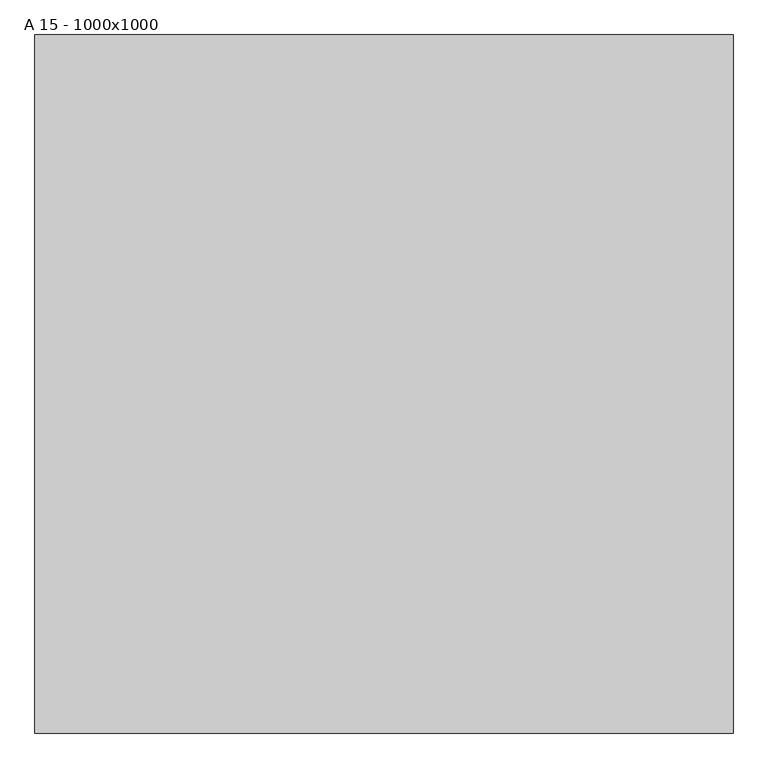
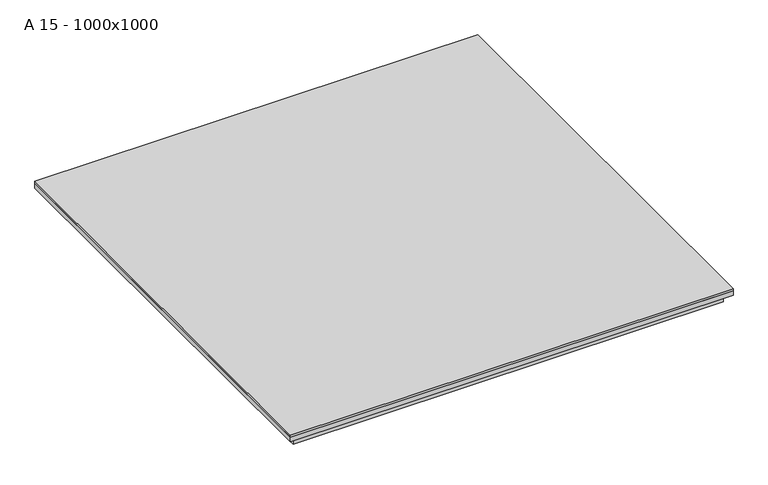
"""IFC4 building model written with IfcOpenShell, lengths in millimetres: proxy geometry, ME_AL_WPB_Access Cover SOLID AL_ACO : A 15 - 1000x1000."""

from ifc_helpers import new_model, si_unit, frame, origin, place, context, project, spatial, polyline, outline, extrude, faceted_brep, source, transform, mapped, element, save


def a_15_1000x1000_09a3dd51(model_context):
    return source(origin(), model_context, "Body", "SolidModel", [
        extrude(outline(polyline([(539.0, 539.0), (539.0, -539.0), (-539.0, -539.0), (-539.0, 539.0), (539.0, 539.0)])), frame((0.0, 0.0, -5.0), z_axis=(0.0, 0.0, 1.0), x_axis=(1.0, 0.0, 0.0)), (0.0, 0.0, 1.0), 5.0),
        faceted_brep([(500.0, 500.0, -35.5), (500.0, 500.0, -37.5), (500.0, -500.0, -37.5), (500.0, -500.0, -35.5), (537.0, 537.0, -5.0), (537.0, 537.0, -15.0), (537.0, -537.0, -15.0), (537.0, -537.0, -5.0), (539.0, 539.0, -17.0), (539.0, 539.0, -5.0), (539.0, -539.0, -5.0), (539.0, -539.0, -17.0), (-500.0, -500.0, -37.5), (-500.0, -500.0, -35.5), (-537.0, -537.0, -15.0), (-537.0, -537.0, -5.0), (-539.0, -539.0, -5.0), (-539.0, -539.0, -17.0), (-500.0, 500.0, -37.5), (-500.0, 500.0, -35.5), (-537.0, 537.0, -15.0), (-537.0, 537.0, -5.0), (-539.0, 539.0, -5.0), (-539.0, 539.0, -17.0), (524.0, -524.0, -37.5), (-524.0, -524.0, -37.5), (-524.0, 524.0, -37.5), (524.0, 524.0, -37.5), (524.0, 524.0, -17.0), (524.0, -524.0, -17.0), (522.0, 522.0, -15.0), (522.0, 522.0, -35.5), (522.0, -522.0, -35.5), (522.0, -522.0, -15.0), (-524.0, -524.0, -17.0), (-522.0, -522.0, -35.5), (-522.0, -522.0, -15.0), (-524.0, 524.0, -17.0), (-522.0, 522.0, -35.5), (-522.0, 522.0, -15.0)], [[[0, 1, 2, 3]], [[4, 5, 6, 7]], [[8, 9, 10, 11]], [[3, 2, 12, 13]], [[7, 6, 14, 15]], [[11, 10, 16, 17]], [[13, 12, 18, 19]], [[15, 14, 20, 21]], [[17, 16, 22, 23]], [[24, 25, 26, 27], [1, 18, 12, 2]], [[19, 18, 1, 0]], [[21, 20, 5, 4]], [[9, 22, 16, 10], [7, 15, 21, 4]], [[23, 22, 9, 8]], [[27, 28, 29, 24]], [[30, 31, 32, 33]], [[24, 29, 34, 25]], [[33, 32, 35, 36]], [[25, 34, 37, 26]], [[36, 35, 38, 39]], [[11, 17, 23, 8], [28, 37, 34, 29]], [[26, 37, 28, 27]], [[31, 38, 35, 32], [3, 13, 19, 0]], [[39, 38, 31, 30]], [[5, 20, 14, 6], [33, 36, 39, 30]]]),
    ])


if __name__ == "__main__":
    model = new_model("IFC4")
    model_context = context("Model", 3, world=origin())
    ifc_project = project(units=[si_unit("LENGTHUNIT", "METRE", prefix="MILLI")], contexts=[model_context])
    site = spatial("IfcSite", under=ifc_project)
    building = spatial("IfcBuilding", under=site)
    placement = place(None, origin())
    a_15_1000x1000_shape = a_15_1000x1000_09a3dd51(model_context)
    element("IfcBuildingElementProxy", 1, Name="ME_AL_WPB_Access Cover SOLID AL_ACO : A 15 - 1000x1000", ObjectType="ME_AL_WPB_Access Cover SOLID AL_ACO : A 15 - 1000x1000", at=placement, inside=building, context=model_context, shape_type="MappedRepresentation", body=[
        mapped(a_15_1000x1000_shape, transform((0.0, 0.0, 0.0), x_axis=(1.0, 0.0, 0.0), y_axis=(0.0, 1.0, 0.0), z_axis=(0.0, 0.0, 1.0))),
    ])
    save(model, "model.ifc")
